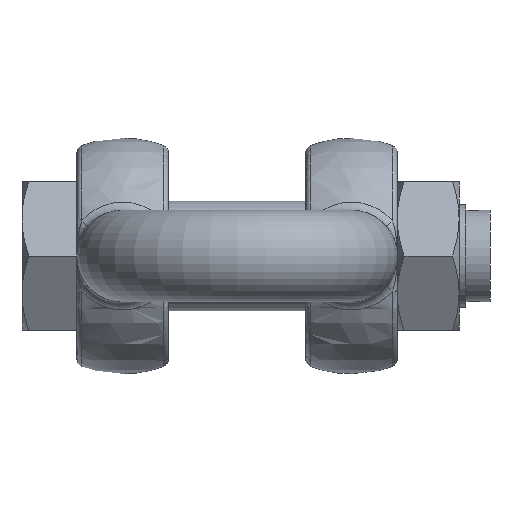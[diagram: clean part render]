
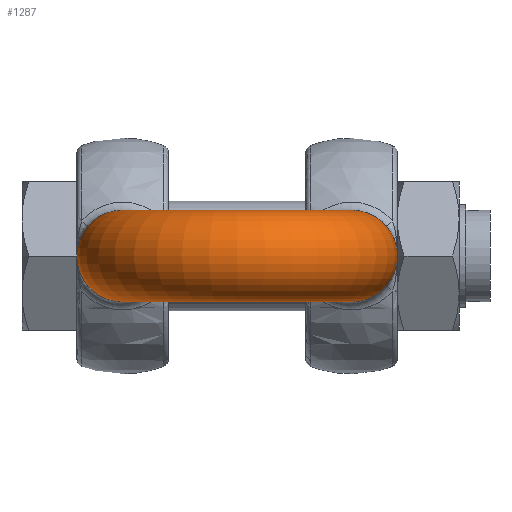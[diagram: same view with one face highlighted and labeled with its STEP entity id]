
A CAD part, front view. The second image highlights one B-rep face of the part: STEP entity #1287.
In plain terms, the highlighted toroidal (fillet/blend) face has major radius 100 mm and minor radius 40 mm.
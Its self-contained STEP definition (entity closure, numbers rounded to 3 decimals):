
#123=TOROIDAL_SURFACE('',#1460,100.,40.);
#234=FACE_OUTER_BOUND('',#323,.T.);
#323=EDGE_LOOP('',(#1029,#1030,#1031,#1032,#1033,#1034));
#486=CIRCLE('',#1458,40.);
#487=CIRCLE('',#1459,40.);
#488=CIRCLE('',#1461,60.);
#489=CIRCLE('',#1462,40.);
#490=CIRCLE('',#1463,40.);
#579=VERTEX_POINT('',#3002);
#580=VERTEX_POINT('',#3004);
#581=VERTEX_POINT('',#3008);
#582=VERTEX_POINT('',#3010);
#739=EDGE_CURVE('',#579,#580,#486,.T.);
#740=EDGE_CURVE('',#580,#579,#487,.T.);
#741=EDGE_CURVE('',#580,#581,#488,.T.);
#742=EDGE_CURVE('',#581,#582,#489,.T.);
#743=EDGE_CURVE('',#582,#581,#490,.T.);
#1029=ORIENTED_EDGE('',*,*,#740,.F.);
#1030=ORIENTED_EDGE('',*,*,#741,.T.);
#1031=ORIENTED_EDGE('',*,*,#742,.T.);
#1032=ORIENTED_EDGE('',*,*,#743,.T.);
#1033=ORIENTED_EDGE('',*,*,#741,.F.);
#1034=ORIENTED_EDGE('',*,*,#739,.F.);
#1287=ADVANCED_FACE('',(#234),#123,.T.);
#1458=AXIS2_PLACEMENT_3D('',#3005,#1691,#1692);
#1459=AXIS2_PLACEMENT_3D('',#3006,#1693,#1694);
#1460=AXIS2_PLACEMENT_3D('',#3007,#1695,#1696);
#1461=AXIS2_PLACEMENT_3D('',#3009,#1697,#1698);
#1462=AXIS2_PLACEMENT_3D('',#3011,#1699,#1700);
#1463=AXIS2_PLACEMENT_3D('',#3012,#1701,#1702);
#1691=DIRECTION('center_axis',(0.,1.,0.));
#1692=DIRECTION('ref_axis',(1.,0.,0.));
#1693=DIRECTION('center_axis',(0.,1.,0.));
#1694=DIRECTION('ref_axis',(1.,0.,0.));
#1695=DIRECTION('center_axis',(0.,0.,-1.));
#1696=DIRECTION('ref_axis',(-1.,0.,0.));
#1697=DIRECTION('center_axis',(0.,0.,1.));
#1698=DIRECTION('ref_axis',(-1.,0.,0.));
#1699=DIRECTION('center_axis',(0.,-1.,0.));
#1700=DIRECTION('ref_axis',(-1.,0.,0.));
#1701=DIRECTION('center_axis',(0.,-1.,0.));
#1702=DIRECTION('ref_axis',(-1.,0.,0.));
#3002=CARTESIAN_POINT('',(-140.,140.,0.));
#3004=CARTESIAN_POINT('',(-60.,140.,0.));
#3005=CARTESIAN_POINT('Origin',(-100.,140.,0.));
#3006=CARTESIAN_POINT('Origin',(-100.,140.,0.));
#3007=CARTESIAN_POINT('Origin',(0.,140.,0.));
#3008=CARTESIAN_POINT('',(60.,140.,0.));
#3009=CARTESIAN_POINT('Origin',(0.,140.,0.));
#3010=CARTESIAN_POINT('',(140.,140.,0.));
#3011=CARTESIAN_POINT('Origin',(100.,140.,0.));
#3012=CARTESIAN_POINT('Origin',(100.,140.,0.));
